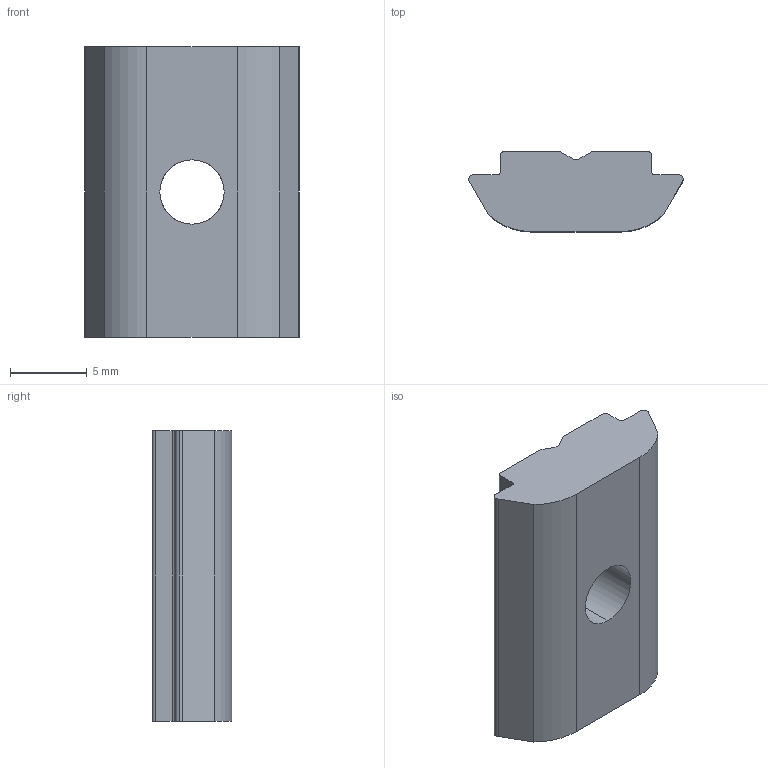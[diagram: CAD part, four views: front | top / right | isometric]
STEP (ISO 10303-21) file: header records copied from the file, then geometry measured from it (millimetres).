
FILE_DESCRIPTION(('STEP AP214'),'1');
FILE_NAME('C:/TPO v2/SharedFS/Outgoing/fath_096165.stp','2016-08-26T13:07:04',('TraceParts'),('TraceParts S.A.'),'Spatial InterOp 3D',' ',' ');
FILE_SCHEMA(('automotive_design'));
Length unit declared in the file: millimetre
Products named in the file (1): fath_096165
Bounding box: 14 x 5.2 x 19 mm (x, y, z)
Volume: 1040.6 mm3; surface area: 811.6 mm2
Topology: 1 solids, 1 shells, 30 faces, 87 edges, 58 vertices
Faces by surface type: cylinder 15, plane 15
Entity records: 1272 total; most frequent: CARTESIAN_POINT 200, ORIENTED_EDGE 174, DIRECTION 169, EDGE_CURVE 87, AXIS2_PLACEMENT_3D 59, VERTEX_POINT 58, LINE 51, VECTOR 51
